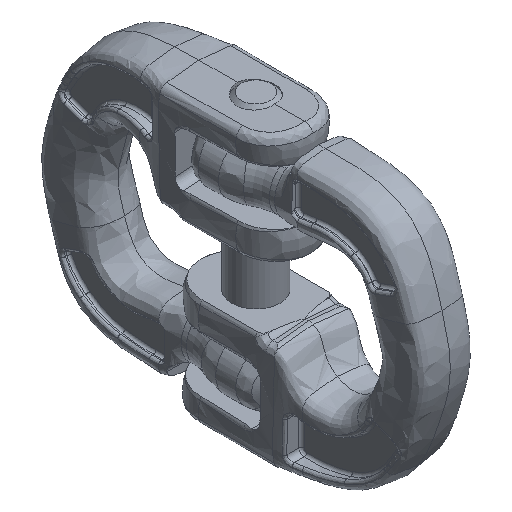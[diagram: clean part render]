
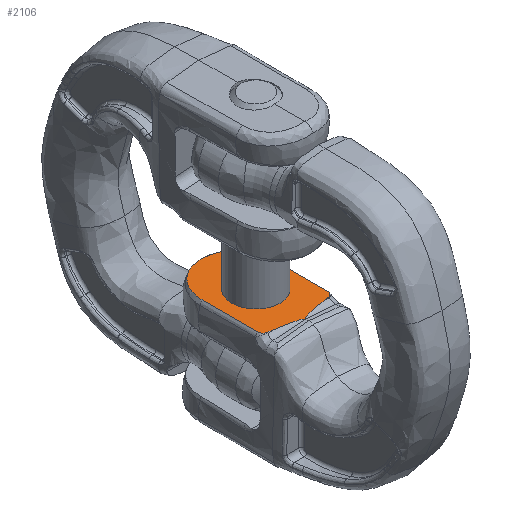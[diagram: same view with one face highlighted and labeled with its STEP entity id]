
A CAD part, isometric view. The second image highlights one B-rep face of the part: STEP entity #2106.
In plain terms, the highlighted planar face has unit normal (0, 0, 1).
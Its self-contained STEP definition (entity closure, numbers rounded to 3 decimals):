
#720=B_SPLINE_CURVE_WITH_KNOTS('',3,(#33427,#33428,#33429,#33430,#33431,
#33432,#33433,#33434,#33435,#33436),.UNSPECIFIED.,.F.,.F.,(4,3,3,4),(0.,
0.065,0.356,1.),.UNSPECIFIED.);
#721=B_SPLINE_CURVE_WITH_KNOTS('',3,(#33438,#33439,#33440,#33441,#33442,
#33443),.UNSPECIFIED.,.F.,.F.,(4,2,4),(0.,0.5,1.),.UNSPECIFIED.);
#722=B_SPLINE_CURVE_WITH_KNOTS('',3,(#33447,#33448,#33449,#33450,#33451,
#33452),.UNSPECIFIED.,.F.,.F.,(4,2,4),(0.,0.5,1.),.UNSPECIFIED.);
#723=B_SPLINE_CURVE_WITH_KNOTS('',3,(#33454,#33455,#33456,#33457,#33458,
#33459,#33460),.UNSPECIFIED.,.F.,.F.,(4,3,4),(0.,0.291,1.),.UNSPECIFIED.);
#1048=ELLIPSE('',#9715,28.732,3.);
#1049=ELLIPSE('',#9716,28.732,3.);
#1050=ELLIPSE('',#9717,28.732,3.);
#1051=ELLIPSE('',#9721,28.732,3.);
#1187=LINE('',#33421,#1433);
#1188=LINE('',#33466,#1434);
#1433=VECTOR('',#11114,1.);
#1434=VECTOR('',#11125,1.);
#1787=FACE_BOUND('',#3403,.T.);
#2106=ADVANCED_FACE('',(#2789,#1787),#2448,.T.);
#2448=PLANE('',#9723);
#2789=FACE_OUTER_BOUND('',#3402,.T.);
#3402=EDGE_LOOP('',(#5171,#5172,#5173,#5174,#5175,#5176,#5177,#5178,#5179,
#5180,#5181,#5182,#5183));
#3403=EDGE_LOOP('',(#5184));
#5171=ORIENTED_EDGE('',*,*,#8128,.T.);
#5172=ORIENTED_EDGE('',*,*,#8129,.T.);
#5173=ORIENTED_EDGE('',*,*,#8130,.F.);
#5174=ORIENTED_EDGE('',*,*,#8131,.F.);
#5175=ORIENTED_EDGE('',*,*,#8132,.F.);
#5176=ORIENTED_EDGE('',*,*,#8133,.F.);
#5177=ORIENTED_EDGE('',*,*,#8134,.F.);
#5178=ORIENTED_EDGE('',*,*,#8135,.T.);
#5179=ORIENTED_EDGE('',*,*,#8136,.F.);
#5180=ORIENTED_EDGE('',*,*,#8137,.F.);
#5181=ORIENTED_EDGE('',*,*,#8138,.F.);
#5182=ORIENTED_EDGE('',*,*,#8139,.F.);
#5183=ORIENTED_EDGE('',*,*,#8140,.F.);
#5184=ORIENTED_EDGE('',*,*,#8141,.T.);
#6999=VERTEX_POINT('',#33417);
#7000=VERTEX_POINT('',#33418);
#7001=VERTEX_POINT('',#33420);
#7002=VERTEX_POINT('',#33422);
#7003=VERTEX_POINT('',#33424);
#7004=VERTEX_POINT('',#33426);
#7005=VERTEX_POINT('',#33437);
#7006=VERTEX_POINT('',#33444);
#7007=VERTEX_POINT('',#33446);
#7008=VERTEX_POINT('',#33453);
#7009=VERTEX_POINT('',#33461);
#7010=VERTEX_POINT('',#33463);
#7011=VERTEX_POINT('',#33465);
#7012=VERTEX_POINT('',#33468);
#8128=EDGE_CURVE('',#6999,#7000,#1048,.T.);
#8129=EDGE_CURVE('',#7000,#7001,#1049,.T.);
#8130=EDGE_CURVE('',#7002,#7001,#1187,.T.);
#8131=EDGE_CURVE('',#7003,#7002,#1050,.T.);
#8132=EDGE_CURVE('',#7004,#7003,#9045,.T.);
#8133=EDGE_CURVE('',#7005,#7004,#720,.T.);
#8134=EDGE_CURVE('',#7006,#7005,#721,.T.);
#8135=EDGE_CURVE('',#7006,#7007,#9046,.T.);
#8136=EDGE_CURVE('',#7008,#7007,#722,.T.);
#8137=EDGE_CURVE('',#7009,#7008,#723,.T.);
#8138=EDGE_CURVE('',#7010,#7009,#9047,.T.);
#8139=EDGE_CURVE('',#7011,#7010,#1051,.T.);
#8140=EDGE_CURVE('',#6999,#7011,#1188,.T.);
#8141=EDGE_CURVE('',#7012,#7012,#9048,.T.);
#9045=CIRCLE('',#9718,2.067);
#9046=CIRCLE('',#9719,13.435);
#9047=CIRCLE('',#9720,2.067);
#9048=CIRCLE('',#9722,7.);
#9715=AXIS2_PLACEMENT_3D('',#33416,#11110,#11111);
#9716=AXIS2_PLACEMENT_3D('',#33419,#11112,#11113);
#9717=AXIS2_PLACEMENT_3D('',#33423,#11115,#11116);
#9718=AXIS2_PLACEMENT_3D('',#33425,#11117,#11118);
#9719=AXIS2_PLACEMENT_3D('',#33445,#11119,#11120);
#9720=AXIS2_PLACEMENT_3D('',#33462,#11121,#11122);
#9721=AXIS2_PLACEMENT_3D('',#33464,#11123,#11124);
#9722=AXIS2_PLACEMENT_3D('',#33467,#11126,#11127);
#9723=AXIS2_PLACEMENT_3D('',#33469,#11128,#11129);
#11110=DIRECTION('',(0.,0.,-1.));
#11111=DIRECTION('',(-0.999,0.047,0.));
#11112=DIRECTION('',(0.,0.,-1.));
#11113=DIRECTION('',(0.999,0.047,0.));
#11114=DIRECTION('',(-0.99,-0.14,0.));
#11115=DIRECTION('',(0.,0.,-1.));
#11116=DIRECTION('',(-0.999,-0.047,0.));
#11117=DIRECTION('',(0.,0.,-1.));
#11118=DIRECTION('',(1.,0.,0.));
#11119=DIRECTION('',(0.,0.,1.));
#11120=DIRECTION('',(1.,0.,0.));
#11121=DIRECTION('',(0.,0.,-1.));
#11122=DIRECTION('',(1.,0.,0.));
#11123=DIRECTION('',(0.,0.,-1.));
#11124=DIRECTION('',(0.999,-0.047,0.));
#11125=DIRECTION('',(-0.99,0.14,0.));
#11126=DIRECTION('',(0.,0.,-1.));
#11127=DIRECTION('',(1.,0.,0.));
#11128=DIRECTION('',(0.,0.,1.));
#11129=DIRECTION('',(1.,0.,0.));
#33416=CARTESIAN_POINT('',(-28.7,-17.289,0.));
#33417=CARTESIAN_POINT('',(-9.462,-15.955,0.));
#33418=CARTESIAN_POINT('',(0.,-18.623,0.));
#33419=CARTESIAN_POINT('',(28.7,-17.289,0.));
#33420=CARTESIAN_POINT('',(9.462,-15.955,0.));
#33421=CARTESIAN_POINT('',(0.124,-17.271,0.));
#33422=CARTESIAN_POINT('',(9.566,-15.94,0.));
#33423=CARTESIAN_POINT('',(-9.672,-14.606,0.));
#33424=CARTESIAN_POINT('',(11.338,-15.675,0.));
#33425=CARTESIAN_POINT('',(11.014,-13.633,0.));
#33426=CARTESIAN_POINT('',(13.081,-13.633,0.));
#33427=CARTESIAN_POINT('',(13.083,7.005,0.));
#33428=CARTESIAN_POINT('',(13.09,6.556,0.));
#33429=CARTESIAN_POINT('',(13.087,6.106,0.));
#33430=CARTESIAN_POINT('',(13.083,5.657,0.));
#33431=CARTESIAN_POINT('',(13.067,3.657,0.));
#33432=CARTESIAN_POINT('',(13.082,1.657,0.));
#33433=CARTESIAN_POINT('',(13.082,-0.343,0.));
#33434=CARTESIAN_POINT('',(13.082,-4.773,0.));
#33435=CARTESIAN_POINT('',(13.081,-9.203,0.));
#33436=CARTESIAN_POINT('',(13.081,-13.633,0.));
#33437=CARTESIAN_POINT('',(13.083,7.003,0.));
#33438=CARTESIAN_POINT('',(1.122,20.389,0.));
#33439=CARTESIAN_POINT('',(4.428,20.111,0.));
#33440=CARTESIAN_POINT('',(7.544,18.512,0.));
#33441=CARTESIAN_POINT('',(11.88,13.589,0.));
#33442=CARTESIAN_POINT('',(13.082,10.315,0.));
#33443=CARTESIAN_POINT('',(13.082,7.,0.));
#33444=CARTESIAN_POINT('',(1.122,20.389,0.));
#33445=CARTESIAN_POINT('',(0.,7.,0.));
#33446=CARTESIAN_POINT('',(-1.122,20.389,0.));
#33447=CARTESIAN_POINT('',(-13.082,7.,0.));
#33448=CARTESIAN_POINT('',(-13.082,10.318,0.));
#33449=CARTESIAN_POINT('',(-11.901,13.562,0.));
#33450=CARTESIAN_POINT('',(-7.536,18.524,0.));
#33451=CARTESIAN_POINT('',(-4.432,20.111,0.));
#33452=CARTESIAN_POINT('',(-1.122,20.389,0.));
#33453=CARTESIAN_POINT('',(-13.083,7.001,0.));
#33454=CARTESIAN_POINT('',(-13.081,-13.633,0.));
#33455=CARTESIAN_POINT('',(-13.081,-11.633,0.));
#33456=CARTESIAN_POINT('',(-13.081,-9.633,0.));
#33457=CARTESIAN_POINT('',(-13.081,-7.633,0.));
#33458=CARTESIAN_POINT('',(-13.081,-2.754,0.));
#33459=CARTESIAN_POINT('',(-13.161,2.126,0.));
#33460=CARTESIAN_POINT('',(-13.083,7.005,0.));
#33461=CARTESIAN_POINT('',(-13.081,-13.633,0.));
#33462=CARTESIAN_POINT('',(-11.014,-13.633,0.));
#33463=CARTESIAN_POINT('',(-11.338,-15.675,0.));
#33464=CARTESIAN_POINT('',(9.672,-14.606,0.));
#33465=CARTESIAN_POINT('',(-9.566,-15.94,0.));
#33466=CARTESIAN_POINT('',(-0.124,-17.271,0.));
#33467=CARTESIAN_POINT('',(0.,0.,0.));
#33468=CARTESIAN_POINT('',(7.,0.,0.));
#33469=CARTESIAN_POINT('',(-24.405,-20.823,0.));
